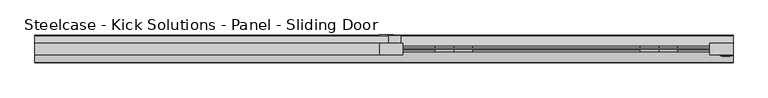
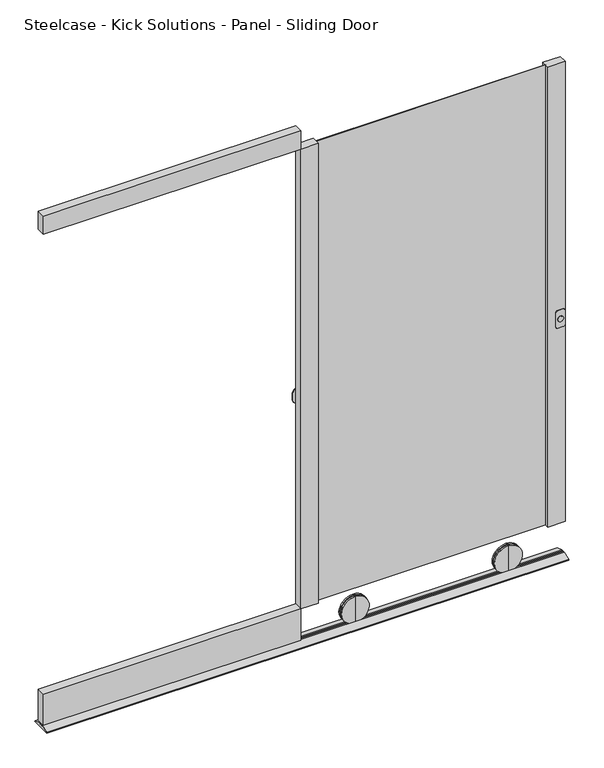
"""IFC4 building model written with IfcOpenShell, lengths in millimetres: furniture geometry, Steelcase - Kick Solutions - Panel - Sliding Door : 78H x 36W - Left Hand with Lock."""

from ifc_helpers import new_model, si_unit, point, frame, frame_2d, origin, place, context, project, spatial, polyline, circle_curve, trimmed, segment, composite_curve, outline, extrude, source, transform, mapped, element, save
from ifc_brep_helpers import plane_surface, cylinder_surface, advanced_brep


def steelcase_kick_solutions_panel_sliding_door_669c3863(model_context):
    return source(origin(), model_context, "Body", "SolidModel", [
        extrude(outline(composite_curve([segment(trimmed(circle_curve(frame_2d((927.2505008, 946.1500484)), 10.2804656), [point((937.5309664, 946.1500484))], [point((916.9700352, 946.1500484))], False, "CARTESIAN"), True, "CONTINUOUS"), segment(trimmed(circle_curve(frame_2d((927.2505008, 946.1500484)), 10.2804656), [point((916.9700352, 946.1500484))], [point((937.5309664, 946.1500484))], False, "CARTESIAN"), True, "CONTINUOUS")], self_intersect=False)), frame((0.0, -46.3394499, 0.0), z_axis=(0.0, 1.0, 0.0), x_axis=(0.0, 0.0, 1.0)), (0.0, 0.0, 1.0), 2.159),
        extrude(outline(composite_curve([segment(polyline([(960.7539028, 956.3923137), (960.7539028, 936.0723137)]), True, "CONTINUOUS"), segment(trimmed(circle_curve(frame_2d((954.4039028, 936.0723137)), 6.35), [point((960.7539028, 936.0723137))], [point((954.4039028, 929.7223137))], False, "CARTESIAN"), True, "CONTINUOUS"), segment(polyline([(954.4039028, 929.7223137), (899.7939028, 929.7223137)]), True, "CONTINUOUS"), segment(trimmed(circle_curve(frame_2d((899.7939028, 936.0723137)), 6.35), [point((899.7939028, 929.7223137))], [point((893.4439028, 936.0723137))], False, "CARTESIAN"), True, "CONTINUOUS"), segment(polyline([(893.4439028, 936.0723137), (893.4439028, 956.3923137)]), True, "CONTINUOUS"), segment(trimmed(circle_curve(frame_2d((899.7939028, 956.3923137)), 6.35), [point((893.4439028, 956.3923137))], [point((899.7939028, 962.7423137))], False, "CARTESIAN"), True, "CONTINUOUS"), segment(polyline([(899.7939028, 962.7423137), (954.4039028, 962.7423137)]), True, "CONTINUOUS"), segment(trimmed(circle_curve(frame_2d((954.4039028, 956.3923137)), 6.35), [point((954.4039028, 962.7423137))], [point((960.7539028, 956.3923137))], False, "CARTESIAN"), True, "CONTINUOUS")], self_intersect=False)), frame((0.0, -44.1804499, 0.0), z_axis=(0.0, 1.0, 0.0), x_axis=(0.0, 0.0, 1.0)), (0.0, 0.0, 1.0), 2.1118392),
        extrude(outline(composite_curve([segment(polyline([(942.3399783, 38.2041062), (955.0399783, 38.2041062), (955.0399783, 22.4914583)]), True, "CONTINUOUS"), segment(trimmed(circle_curve(frame_2d((932.54852, 22.4914583)), 22.4914583), [point((955.0399783, 22.4914583))], [point((932.54852, 0.0))], False, "CARTESIAN"), True, "CONTINUOUS"), segment(polyline([(932.54852, 0.0), (913.3157475, 0.0)]), True, "CONTINUOUS"), segment(trimmed(circle_curve(frame_2d((913.3157475, 21.7757692)), 21.7757692), [point((913.3157475, 0.0))], [point((891.5399783, 21.7757692))], False, "CARTESIAN"), True, "CONTINUOUS"), segment(polyline([(891.5399783, 21.7757692), (891.5399783, 38.2041062), (904.2399783, 38.2041062), (904.2399783, 20.525442)]), True, "CONTINUOUS"), segment(trimmed(circle_curve(frame_2d((911.9613141, 20.525442)), 7.7213358), [point((904.2399783, 20.525442))], [point((911.9613141, 12.8041062))], True, "CARTESIAN"), True, "CONTINUOUS"), segment(polyline([(911.9613141, 12.8041062), (933.6356449, 12.8041062)]), True, "CONTINUOUS"), segment(trimmed(circle_curve(frame_2d((933.6356449, 21.5084396)), 8.7043334), [point((933.6356449, 12.8041062))], [point((942.3399783, 21.5084396))], True, "CARTESIAN"), True, "CONTINUOUS"), segment(polyline([(942.3399783, 21.5084396), (942.3399783, 38.2041062)]), True, "CONTINUOUS")], self_intersect=False)), frame((0.0, 9.7793101, 0.0), z_axis=(0.0, 1.0, 0.0), x_axis=(0.0, 0.0, 1.0)), (0.0, 0.0, 1.0), 2.1118397),
        extrude(outline(polyline([(58.3565349, -10.3186092), (25.3365349, -10.3186092), (25.3365349, 9.7793101), (58.3565349, 9.7793101), (58.3565349, -10.3186092)])), frame((0.0, 0.0, 828.6739028), z_axis=(0.0, 0.0, 1.0), x_axis=(1.0, 0.0, 0.0)), (0.0, 0.0, 1.0), 196.85),
        advanced_brep(
        [(762.0000484, -18.7010906, 6.7959428), (762.0000484, -18.7010906, 108.3959428), (762.0000484, -18.7010906, 57.5959428), (762.0000484, -23.8703628, 6.7959428), (762.0000484, -23.8703628, 108.3959428), (762.0000484, -23.8703628, 57.5959428)],
        [
            (0, 1, circle_curve(frame((762.0000484, -18.7010906, 57.5959428), z_axis=(0.0, 1.0, 0.0), x_axis=(0.0, 0.0, 1.0)), 50.8)),
            (1, 2),
            (2, 0),
            (1, 0, circle_curve(frame((762.0000484, -18.7010906, 57.5959428), z_axis=(0.0, 1.0, 0.0), x_axis=(0.0, 0.0, 1.0)), 50.8)),
            (3, 4, circle_curve(frame((762.0000484, -23.8703628, 57.5959428), z_axis=(0.0, 1.0, 0.0), x_axis=(0.0, 0.0, 1.0)), 50.8)),
            (4, 1),
            (0, 3),
            (4, 3, circle_curve(frame((762.0000484, -23.8703628, 57.5959428), z_axis=(0.0, 1.0, 0.0), x_axis=(0.0, 0.0, 1.0)), 50.8)),
            (5, 4),
            (3, 5),
        ],
        [
            plane_surface(frame((762.0000484, -18.7010906, 57.5959428), z_axis=(0.0, 1.0, 0.0), x_axis=(0.0, 0.0, 1.0))),
            cylinder_surface(frame((762.0000484, -28.422537, 57.5959428), z_axis=(0.0, -1.0, 0.0), x_axis=(0.0, 0.0, 1.0)), 50.8),
            plane_surface(frame((762.0000484, -23.8703628, 57.5959428), z_axis=(0.0, -1.0, 0.0), x_axis=(0.0, 0.0, 1.0))),
        ],
        [
            (0, [[1, 2, 3]]),
            (0, [[4, -3, -2]]),
            (1, [[5, 6, -1, 7]]),
            (1, [[8, -7, -4, -6]]),
            (2, [[9, -5, 10]]),
            (2, [[-10, -8, -9]]),
        ],
    ),
        advanced_brep(
        [(762.0000484, -28.422537, 6.7959428), (762.0000484, -28.422537, 108.3959428), (762.0000484, -28.422537, 57.5959428), (762.0000484, -33.4459111, 6.7959428), (762.0000484, -33.4459111, 108.3959428), (762.0000484, -33.4459111, 57.5959428)],
        [
            (0, 1, circle_curve(frame((762.0000484, -28.422537, 57.5959428), z_axis=(0.0, 1.0, 0.0), x_axis=(0.0, 0.0, 1.0)), 50.8)),
            (1, 2),
            (2, 0),
            (1, 0, circle_curve(frame((762.0000484, -28.422537, 57.5959428), z_axis=(0.0, 1.0, 0.0), x_axis=(0.0, 0.0, 1.0)), 50.8)),
            (3, 4, circle_curve(frame((762.0000484, -33.4459111, 57.5959428), z_axis=(0.0, 1.0, 0.0), x_axis=(0.0, 0.0, 1.0)), 50.8)),
            (4, 1),
            (0, 3),
            (4, 3, circle_curve(frame((762.0000484, -33.4459111, 57.5959428), z_axis=(0.0, 1.0, 0.0), x_axis=(0.0, 0.0, 1.0)), 50.8)),
            (5, 4),
            (3, 5),
        ],
        [
            plane_surface(frame((762.0000484, -28.422537, 57.5959428), z_axis=(0.0, 1.0, 0.0), x_axis=(0.0, 0.0, 1.0))),
            cylinder_surface(frame((762.0000484, -28.422537, 57.5959428), z_axis=(0.0, -1.0, 0.0), x_axis=(0.0, 0.0, 1.0)), 50.8),
            plane_surface(frame((762.0000484, -33.4459111, 57.5959428), z_axis=(0.0, -1.0, 0.0), x_axis=(0.0, 0.0, 1.0))),
        ],
        [
            (0, [[1, 2, 3]]),
            (0, [[4, -3, -2]]),
            (1, [[5, 6, -1, 7]]),
            (1, [[8, -7, -4, -6]]),
            (2, [[9, -5, 10]]),
            (2, [[-10, -8, -9]]),
        ],
    ),
        advanced_brep(
        [(203.2000484, -18.7010906, 6.7959428), (203.2000484, -18.7010906, 108.3959428), (203.2000484, -18.7010906, 57.5959428), (203.2000484, -23.8703628, 6.7959428), (203.2000484, -23.8703628, 108.3959428), (203.2000484, -23.8703628, 57.5959428)],
        [
            (0, 1, circle_curve(frame((203.2000484, -18.7010906, 57.5959428), z_axis=(0.0, 1.0, 0.0), x_axis=(0.0, 0.0, 1.0)), 50.8)),
            (1, 2),
            (2, 0),
            (1, 0, circle_curve(frame((203.2000484, -18.7010906, 57.5959428), z_axis=(0.0, 1.0, 0.0), x_axis=(0.0, 0.0, 1.0)), 50.8)),
            (3, 4, circle_curve(frame((203.2000484, -23.8703628, 57.5959428), z_axis=(0.0, 1.0, 0.0), x_axis=(0.0, 0.0, 1.0)), 50.8)),
            (4, 1),
            (0, 3),
            (4, 3, circle_curve(frame((203.2000484, -23.8703628, 57.5959428), z_axis=(0.0, 1.0, 0.0), x_axis=(0.0, 0.0, 1.0)), 50.8)),
            (5, 4),
            (3, 5),
        ],
        [
            plane_surface(frame((203.2000484, -18.7010906, 57.5959428), z_axis=(0.0, 1.0, 0.0), x_axis=(0.0, 0.0, 1.0))),
            cylinder_surface(frame((203.2000484, -28.422537, 57.5959428), z_axis=(0.0, -1.0, 0.0), x_axis=(0.0, 0.0, 1.0)), 50.8),
            plane_surface(frame((203.2000484, -23.8703628, 57.5959428), z_axis=(0.0, -1.0, 0.0), x_axis=(0.0, 0.0, 1.0))),
        ],
        [
            (0, [[1, 2, 3]]),
            (0, [[4, -3, -2]]),
            (1, [[5, 6, -1, 7]]),
            (1, [[8, -7, -4, -6]]),
            (2, [[9, -5, 10]]),
            (2, [[-10, -8, -9]]),
        ],
    ),
        advanced_brep(
        [(203.2000484, -28.422537, 6.7959428), (203.2000484, -28.422537, 108.3959428), (203.2000484, -28.422537, 57.5959428), (203.2000484, -33.4459111, 6.7959428), (203.2000484, -33.4459111, 108.3959428), (203.2000484, -33.4459111, 57.5959428)],
        [
            (0, 1, circle_curve(frame((203.2000484, -28.422537, 57.5959428), z_axis=(0.0, 1.0, 0.0), x_axis=(0.0, 0.0, 1.0)), 50.8)),
            (1, 2),
            (2, 0),
            (1, 0, circle_curve(frame((203.2000484, -28.422537, 57.5959428), z_axis=(0.0, 1.0, 0.0), x_axis=(0.0, 0.0, 1.0)), 50.8)),
            (3, 4, circle_curve(frame((203.2000484, -33.4459111, 57.5959428), z_axis=(0.0, 1.0, 0.0), x_axis=(0.0, 0.0, 1.0)), 50.8)),
            (4, 1),
            (0, 3),
            (4, 3, circle_curve(frame((203.2000484, -33.4459111, 57.5959428), z_axis=(0.0, 1.0, 0.0), x_axis=(0.0, 0.0, 1.0)), 50.8)),
            (5, 4),
            (3, 5),
        ],
        [
            plane_surface(frame((203.2000484, -28.422537, 57.5959428), z_axis=(0.0, 1.0, 0.0), x_axis=(0.0, 0.0, 1.0))),
            cylinder_surface(frame((203.2000484, -28.422537, 57.5959428), z_axis=(0.0, -1.0, 0.0), x_axis=(0.0, 0.0, 1.0)), 50.8),
            plane_surface(frame((203.2000484, -33.4459111, 57.5959428), z_axis=(0.0, -1.0, 0.0), x_axis=(0.0, 0.0, 1.0))),
        ],
        [
            (0, [[1, 2, 3]]),
            (0, [[4, -3, -2]]),
            (1, [[5, 6, -1, 7]]),
            (1, [[8, -7, -4, -6]]),
            (2, [[9, -5, 10]]),
            (2, [[-10, -8, -9]]),
        ],
    ),
        extrude(outline(polyline([(63.5000484, -42.0686107), (0.0, -42.0686107), (0.0, -10.3186092), (63.5000484, -10.3186092), (63.5000484, -42.0686107)])), frame((0.0, 0.0, 137.1589063), z_axis=(0.0, 0.0, 1.0), x_axis=(1.0, 0.0, 0.0)), (0.0, 0.0, 1.0), 1774.1911421),
        extrude(outline(polyline([(965.2, -42.0686107), (901.7000484, -42.0686107), (901.7000484, -10.3186092), (965.2, -10.3186092), (965.2, -42.0686107)])), frame((0.0, 0.0, 137.1589063), z_axis=(0.0, 0.0, 1.0), x_axis=(1.0, 0.0, 0.0)), (0.0, 0.0, 1.0), 1774.1911421),
        extrude(outline(polyline([(-24.2505784, 6.2879429), (-17.9005799, 6.2879429), (-17.9005799, 12.2490843), (10.0049365, 3.0138476), (11.9383101, 0.0), (-64.2312094, 0.0), (-62.2978359, 3.0138476), (-34.3923194, 12.2490843), (-34.3923194, 6.2879429), (-28.042321, 6.2879429), (-28.042321, 12.6379425), (-24.2505784, 12.6379425), (-24.2505784, 6.2879429)])), frame((-939.8, 0.0, 0.0), z_axis=(1.0, 0.0, 0.0), x_axis=(0.0, 1.0, 0.0)), (0.0, 0.0, 1.0), 1905.0),
        extrude(outline(polyline([(0.0, -10.3186092), (0.0, -42.0686107), (-939.8, -42.0686107), (-939.8, -10.3186092), (0.0, -10.3186092)])), frame((0.0, 0.0, 16.5089033), z_axis=(0.0, 0.0, 1.0), x_axis=(1.0, 0.0, 0.0)), (0.0, 0.0, 1.0), 120.650003),
        extrude(outline(polyline([(0.0, -10.3186092), (0.0, -42.0686107), (-939.8, -42.0686107), (-939.8, -10.3186092), (0.0, -10.3186092)])), frame((0.0, 0.0, 1911.3500484), z_axis=(0.0, 0.0, 1.0), x_axis=(1.0, 0.0, 0.0)), (0.0, 0.0, 1.0), 69.8499516),
        extrude(outline(polyline([(901.7000484, -27.6369762), (63.5000484, -27.6369762), (63.5000484, -24.6559232), (901.7000484, -24.6559232), (901.7000484, -27.6369762)])), frame((0.0, 0.0, 137.1589063), z_axis=(0.0, 0.0, 1.0), x_axis=(1.0, 0.0, 0.0)), (0.0, 0.0, 1.0), 1774.1911421),
    ])


if __name__ == "__main__":
    model = new_model("IFC4")
    model_context = context("Model", 3, world=origin())
    ifc_project = project(units=[si_unit("LENGTHUNIT", "METRE", prefix="MILLI")], contexts=[model_context])
    site = spatial("IfcSite", under=ifc_project)
    building = spatial("IfcBuilding", under=site)
    placement = place(None, origin())
    steelcase_kick_solutions_panel_sliding_door_shape = steelcase_kick_solutions_panel_sliding_door_669c3863(model_context)
    element("IfcFurniture", 1, ObjectType="Steelcase - Kick Solutions - Panel - Sliding Door : 78H x 36W - Left Hand with Lock", at=placement, inside=building, context=model_context, shape_type="MappedRepresentation", body=[
        mapped(steelcase_kick_solutions_panel_sliding_door_shape, transform((0.0, 0.0, 0.0), x_axis=(1.0, 0.0, 0.0), y_axis=(0.0, 1.0, 0.0), z_axis=(0.0, 0.0, 1.0))),
    ])
    save(model, "model.ifc")
